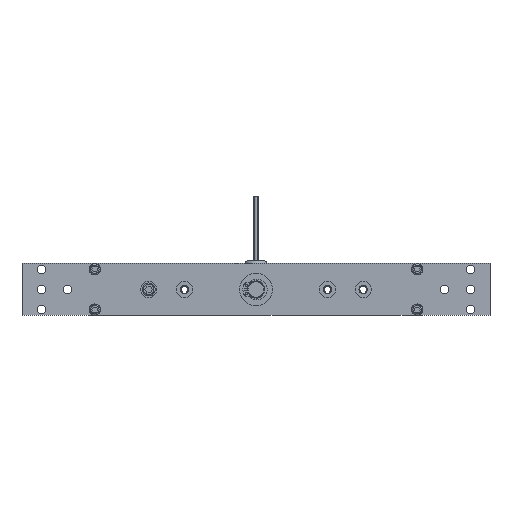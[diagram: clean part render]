
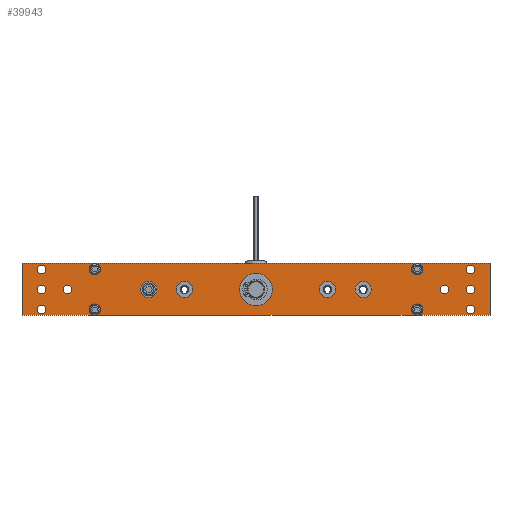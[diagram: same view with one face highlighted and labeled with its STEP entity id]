
A CAD part, front view. The second image highlights one B-rep face of the part: STEP entity #39943.
In plain terms, the highlighted planar face has unit normal (0, -1, 0) as drawn and (0, 0, 1) by its records, which use the part's own axes.
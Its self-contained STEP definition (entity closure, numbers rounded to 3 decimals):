
#2563=CIRCLE('',#50901,3.324);
#2564=CIRCLE('',#50902,3.324);
#2565=CIRCLE('',#50903,3.324);
#2566=CIRCLE('',#50904,3.324);
#2567=CIRCLE('',#50905,3.324);
#2568=CIRCLE('',#50906,3.324);
#2569=CIRCLE('',#50907,3.324);
#2570=CIRCLE('',#50908,3.324);
#2571=CIRCLE('',#50909,6.25);
#2572=CIRCLE('',#50910,6.25);
#2573=CIRCLE('',#50911,6.25);
#2574=CIRCLE('',#50912,6.25);
#2575=CIRCLE('',#50913,4.35);
#2576=CIRCLE('',#50914,4.35);
#2577=CIRCLE('',#50915,4.35);
#2578=CIRCLE('',#50916,4.35);
#2579=CIRCLE('',#50917,12.5);
#14090=ORIENTED_EDGE('',*,*,#20081,.T.);
#14091=ORIENTED_EDGE('',*,*,#20082,.T.);
#14092=ORIENTED_EDGE('',*,*,#20083,.T.);
#14093=ORIENTED_EDGE('',*,*,#20084,.T.);
#14094=ORIENTED_EDGE('',*,*,#20085,.T.);
#14095=ORIENTED_EDGE('',*,*,#20086,.T.);
#14096=ORIENTED_EDGE('',*,*,#20087,.T.);
#14097=ORIENTED_EDGE('',*,*,#20088,.T.);
#14098=ORIENTED_EDGE('',*,*,#20089,.T.);
#14099=ORIENTED_EDGE('',*,*,#20090,.T.);
#14100=ORIENTED_EDGE('',*,*,#20091,.T.);
#14101=ORIENTED_EDGE('',*,*,#20092,.T.);
#14102=ORIENTED_EDGE('',*,*,#20093,.T.);
#14103=ORIENTED_EDGE('',*,*,#20094,.T.);
#14104=ORIENTED_EDGE('',*,*,#20095,.T.);
#14105=ORIENTED_EDGE('',*,*,#20096,.T.);
#14106=ORIENTED_EDGE('',*,*,#20097,.T.);
#14107=ORIENTED_EDGE('',*,*,#20052,.T.);
#14108=ORIENTED_EDGE('',*,*,#20056,.T.);
#14109=ORIENTED_EDGE('',*,*,#20059,.T.);
#14110=ORIENTED_EDGE('',*,*,#20062,.T.);
#20052=EDGE_CURVE('',#24026,#24027,#28160,.T.);
#20056=EDGE_CURVE('',#24027,#24030,#28164,.T.);
#20059=EDGE_CURVE('',#24030,#24032,#28167,.T.);
#20062=EDGE_CURVE('',#24032,#24026,#28170,.T.);
#20081=EDGE_CURVE('',#24051,#24051,#2563,.T.);
#20082=EDGE_CURVE('',#24052,#24052,#2564,.T.);
#20083=EDGE_CURVE('',#24053,#24053,#2565,.T.);
#20084=EDGE_CURVE('',#24054,#24054,#2566,.T.);
#20085=EDGE_CURVE('',#24055,#24055,#2567,.T.);
#20086=EDGE_CURVE('',#24056,#24056,#2568,.T.);
#20087=EDGE_CURVE('',#24057,#24057,#2569,.T.);
#20088=EDGE_CURVE('',#24058,#24058,#2570,.T.);
#20089=EDGE_CURVE('',#24059,#24059,#2571,.T.);
#20090=EDGE_CURVE('',#24060,#24060,#2572,.T.);
#20091=EDGE_CURVE('',#24061,#24061,#2573,.T.);
#20092=EDGE_CURVE('',#24062,#24062,#2574,.T.);
#20093=EDGE_CURVE('',#24063,#24063,#2575,.T.);
#20094=EDGE_CURVE('',#24064,#24064,#2576,.T.);
#20095=EDGE_CURVE('',#24065,#24065,#2577,.T.);
#20096=EDGE_CURVE('',#24066,#24066,#2578,.T.);
#20097=EDGE_CURVE('',#24067,#24067,#2579,.T.);
#24026=VERTEX_POINT('',#74556);
#24027=VERTEX_POINT('',#74557);
#24030=VERTEX_POINT('',#74565);
#24032=VERTEX_POINT('',#74571);
#24051=VERTEX_POINT('',#74615);
#24052=VERTEX_POINT('',#74617);
#24053=VERTEX_POINT('',#74619);
#24054=VERTEX_POINT('',#74621);
#24055=VERTEX_POINT('',#74623);
#24056=VERTEX_POINT('',#74625);
#24057=VERTEX_POINT('',#74627);
#24058=VERTEX_POINT('',#74629);
#24059=VERTEX_POINT('',#74631);
#24060=VERTEX_POINT('',#74633);
#24061=VERTEX_POINT('',#74635);
#24062=VERTEX_POINT('',#74637);
#24063=VERTEX_POINT('',#74639);
#24064=VERTEX_POINT('',#74641);
#24065=VERTEX_POINT('',#74643);
#24066=VERTEX_POINT('',#74645);
#24067=VERTEX_POINT('',#74647);
#28160=LINE('',#74555,#32239);
#28164=LINE('',#74564,#32243);
#28167=LINE('',#74570,#32246);
#28170=LINE('',#74576,#32249);
#32239=VECTOR('',#62009,1000.);
#32243=VECTOR('',#62015,1000.);
#32246=VECTOR('',#62020,1000.);
#32249=VECTOR('',#62025,1000.);
#34349=EDGE_LOOP('',(#14090));
#34350=EDGE_LOOP('',(#14091));
#34351=EDGE_LOOP('',(#14092));
#34352=EDGE_LOOP('',(#14093));
#34353=EDGE_LOOP('',(#14094));
#34354=EDGE_LOOP('',(#14095));
#34355=EDGE_LOOP('',(#14096));
#34356=EDGE_LOOP('',(#14097));
#34357=EDGE_LOOP('',(#14098));
#34358=EDGE_LOOP('',(#14099));
#34359=EDGE_LOOP('',(#14100));
#34360=EDGE_LOOP('',(#14101));
#34361=EDGE_LOOP('',(#14102));
#34362=EDGE_LOOP('',(#14103));
#34363=EDGE_LOOP('',(#14104));
#34364=EDGE_LOOP('',(#14105));
#34365=EDGE_LOOP('',(#14106));
#34366=EDGE_LOOP('',(#14107,#14108,#14109,#14110));
#36541=FACE_BOUND('',#34349,.T.);
#36542=FACE_BOUND('',#34350,.T.);
#36543=FACE_BOUND('',#34351,.T.);
#36544=FACE_BOUND('',#34352,.T.);
#36545=FACE_BOUND('',#34353,.T.);
#36546=FACE_BOUND('',#34354,.T.);
#36547=FACE_BOUND('',#34355,.T.);
#36548=FACE_BOUND('',#34356,.T.);
#36549=FACE_BOUND('',#34357,.T.);
#36550=FACE_BOUND('',#34358,.T.);
#36551=FACE_BOUND('',#34359,.T.);
#36552=FACE_BOUND('',#34360,.T.);
#36553=FACE_BOUND('',#34361,.T.);
#36554=FACE_BOUND('',#34362,.T.);
#36555=FACE_BOUND('',#34363,.T.);
#36556=FACE_BOUND('',#34364,.T.);
#36557=FACE_BOUND('',#34365,.T.);
#36558=FACE_BOUND('',#34366,.T.);
#37956=PLANE('',#50900);
#39943=ADVANCED_FACE('',(#36541,#36542,#36543,#36544,#36545,#36546,#36547,
#36548,#36549,#36550,#36551,#36552,#36553,#36554,#36555,#36556,#36557,#36558),
#37956,.T.);
#50900=AXIS2_PLACEMENT_3D('',#74613,#62063,#62064);
#50901=AXIS2_PLACEMENT_3D('',#74614,#62065,#62066);
#50902=AXIS2_PLACEMENT_3D('',#74616,#62067,#62068);
#50903=AXIS2_PLACEMENT_3D('',#74618,#62069,#62070);
#50904=AXIS2_PLACEMENT_3D('',#74620,#62071,#62072);
#50905=AXIS2_PLACEMENT_3D('',#74622,#62073,#62074);
#50906=AXIS2_PLACEMENT_3D('',#74624,#62075,#62076);
#50907=AXIS2_PLACEMENT_3D('',#74626,#62077,#62078);
#50908=AXIS2_PLACEMENT_3D('',#74628,#62079,#62080);
#50909=AXIS2_PLACEMENT_3D('',#74630,#62081,#62082);
#50910=AXIS2_PLACEMENT_3D('',#74632,#62083,#62084);
#50911=AXIS2_PLACEMENT_3D('',#74634,#62085,#62086);
#50912=AXIS2_PLACEMENT_3D('',#74636,#62087,#62088);
#50913=AXIS2_PLACEMENT_3D('',#74638,#62089,#62090);
#50914=AXIS2_PLACEMENT_3D('',#74640,#62091,#62092);
#50915=AXIS2_PLACEMENT_3D('',#74642,#62093,#62094);
#50916=AXIS2_PLACEMENT_3D('',#74644,#62095,#62096);
#50917=AXIS2_PLACEMENT_3D('',#74646,#62097,#62098);
#62009=DIRECTION('',(0.,-1.,0.));
#62015=DIRECTION('',(1.,0.,0.));
#62020=DIRECTION('',(0.,1.,0.));
#62025=DIRECTION('',(-1.,0.,0.));
#62063=DIRECTION('',(0.,0.,1.));
#62064=DIRECTION('',(1.,0.,0.));
#62065=DIRECTION('',(0.,0.,-1.));
#62066=DIRECTION('',(0.,-1.,0.));
#62067=DIRECTION('',(0.,0.,-1.));
#62068=DIRECTION('',(0.,-1.,0.));
#62069=DIRECTION('',(0.,0.,-1.));
#62070=DIRECTION('',(0.,-1.,0.));
#62071=DIRECTION('',(0.,0.,-1.));
#62072=DIRECTION('',(0.,-1.,0.));
#62073=DIRECTION('',(0.,0.,-1.));
#62074=DIRECTION('',(0.,-1.,0.));
#62075=DIRECTION('',(0.,0.,-1.));
#62076=DIRECTION('',(0.,-1.,0.));
#62077=DIRECTION('',(0.,0.,-1.));
#62078=DIRECTION('',(0.,-1.,0.));
#62079=DIRECTION('',(0.,0.,-1.));
#62080=DIRECTION('',(0.,-1.,0.));
#62081=DIRECTION('',(0.,0.,-1.));
#62082=DIRECTION('',(0.,-1.,0.));
#62083=DIRECTION('',(0.,0.,-1.));
#62084=DIRECTION('',(0.,-1.,0.));
#62085=DIRECTION('',(0.,0.,-1.));
#62086=DIRECTION('',(0.,-1.,0.));
#62087=DIRECTION('',(0.,0.,-1.));
#62088=DIRECTION('',(0.,-1.,0.));
#62089=DIRECTION('',(0.,0.,-1.));
#62090=DIRECTION('',(0.,-1.,0.));
#62091=DIRECTION('',(0.,0.,-1.));
#62092=DIRECTION('',(0.,-1.,0.));
#62093=DIRECTION('',(0.,0.,-1.));
#62094=DIRECTION('',(0.,-1.,0.));
#62095=DIRECTION('',(0.,0.,-1.));
#62096=DIRECTION('',(0.,-1.,0.));
#62097=DIRECTION('',(0.,0.,-1.));
#62098=DIRECTION('',(0.,-1.,0.));
#74555=CARTESIAN_POINT('',(-180.,20.,0.));
#74556=CARTESIAN_POINT('',(-180.,20.,0.));
#74557=CARTESIAN_POINT('',(-180.,-20.,0.));
#74564=CARTESIAN_POINT('',(-180.,-20.,0.));
#74565=CARTESIAN_POINT('',(180.,-20.,0.));
#74570=CARTESIAN_POINT('',(180.,-20.,0.));
#74571=CARTESIAN_POINT('',(180.,20.,0.));
#74576=CARTESIAN_POINT('',(180.,20.,0.));
#74613=CARTESIAN_POINT('',(-180.,-20.,0.));
#74614=CARTESIAN_POINT('',(165.,0.,0.));
#74615=CARTESIAN_POINT('',(165.,-3.323,0.));
#74616=CARTESIAN_POINT('',(165.,-15.5,0.));
#74617=CARTESIAN_POINT('',(165.,-18.823,0.));
#74618=CARTESIAN_POINT('',(145.,0.,0.));
#74619=CARTESIAN_POINT('',(145.,-3.324,0.));
#74620=CARTESIAN_POINT('',(165.,15.5,0.));
#74621=CARTESIAN_POINT('',(165.,12.177,0.));
#74622=CARTESIAN_POINT('',(-165.,0.,0.));
#74623=CARTESIAN_POINT('',(-165.,-3.323,0.));
#74624=CARTESIAN_POINT('',(-165.,-15.5,0.));
#74625=CARTESIAN_POINT('',(-165.,-18.823,0.));
#74626=CARTESIAN_POINT('',(-145.,0.,0.));
#74627=CARTESIAN_POINT('',(-145.,-3.324,0.));
#74628=CARTESIAN_POINT('',(-165.,15.5,0.));
#74629=CARTESIAN_POINT('',(-165.,12.177,0.));
#74630=CARTESIAN_POINT('',(82.5,0.,0.));
#74631=CARTESIAN_POINT('',(82.5,-6.25,0.));
#74632=CARTESIAN_POINT('',(-82.5,0.,0.));
#74633=CARTESIAN_POINT('',(-82.5,-6.25,0.));
#74634=CARTESIAN_POINT('',(55.,0.,0.));
#74635=CARTESIAN_POINT('',(55.,-6.25,0.));
#74636=CARTESIAN_POINT('',(-55.,0.,0.));
#74637=CARTESIAN_POINT('',(-55.,-6.25,0.));
#74638=CARTESIAN_POINT('',(-124.,15.5,0.));
#74639=CARTESIAN_POINT('',(-124.,11.15,0.));
#74640=CARTESIAN_POINT('',(124.,-15.5,0.));
#74641=CARTESIAN_POINT('',(124.,-19.85,0.));
#74642=CARTESIAN_POINT('',(124.,15.5,0.));
#74643=CARTESIAN_POINT('',(124.,11.15,0.));
#74644=CARTESIAN_POINT('',(-124.,-15.5,0.));
#74645=CARTESIAN_POINT('',(-124.,-19.85,0.));
#74646=CARTESIAN_POINT('',(0.,0.,0.));
#74647=CARTESIAN_POINT('',(0.,-12.5,0.));
